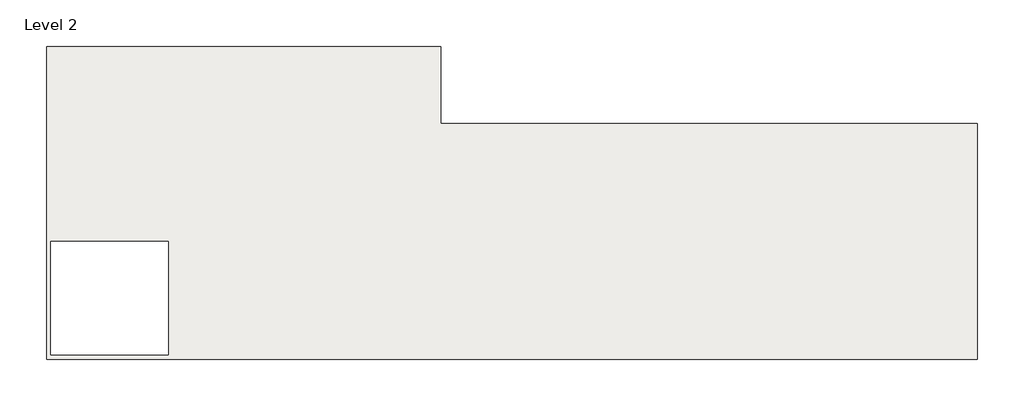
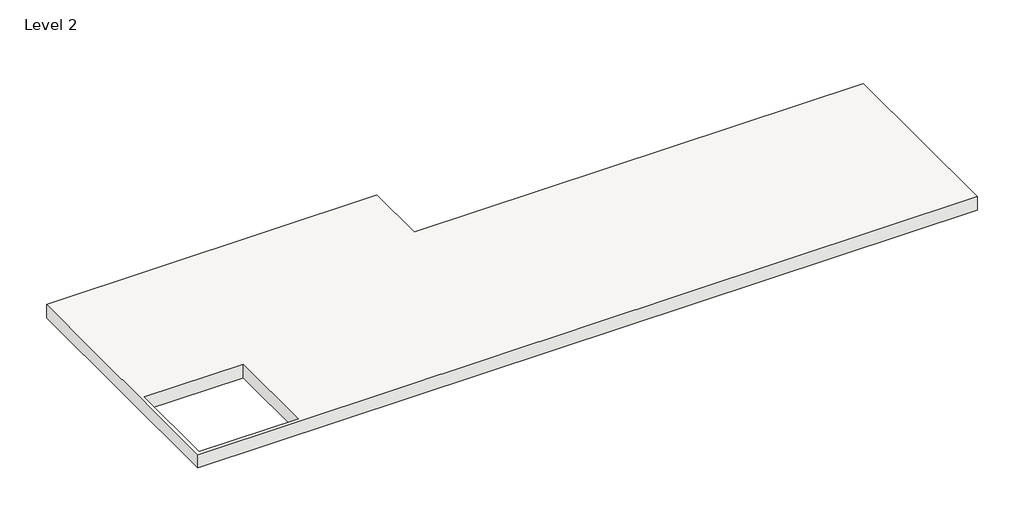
# One storey: 1 roof.
"""IFC4 building model written with IfcOpenShell, lengths in millimetres."""

from ifc_helpers import new_model, si_unit, frame, origin, place, context, project, spatial, polyline, outline, extrude, element, save

model = new_model("IFC4")

# Units and contexts
model_context = context("Model", 3, world=origin())
ifc_project = project(units=[si_unit("LENGTHUNIT", "METRE", prefix="MILLI")], contexts=[model_context])

# Site, building, storey
site = spatial("IfcSite", under=ifc_project)
building = spatial("IfcBuilding", under=site)
storey = spatial("IfcBuildingStorey", under=building, Name="Level 2", Elevation=3200.0)

# Roof
placement = place(None, origin())
element("IfcRoof", 1, ObjectType="Generic - 500mm", at=placement, inside=storey, context=model_context, shape_type="SweptSolid", body=[
    extrude(outline(polyline([(360.0, 9600.0), (12000.0, 9600.0), (12000.0, 7320.0), (27840.0, 7320.0), (27840.0, 360.0), (360.0, 360.0), (360.0, 9600.0)]), holes=[polyline([(480.0, 480.0), (3960.0, 480.0), (3960.0, 3840.0), (480.0, 3840.0), (480.0, 480.0)])]), frame((0.0, 0.0, 2600.0), z_axis=(0.0, 0.0, 1.0), x_axis=(1.0, 0.0, 0.0)), (0.0, 0.0, 1.0), 500.0),
])

save(model, "model.ifc")
